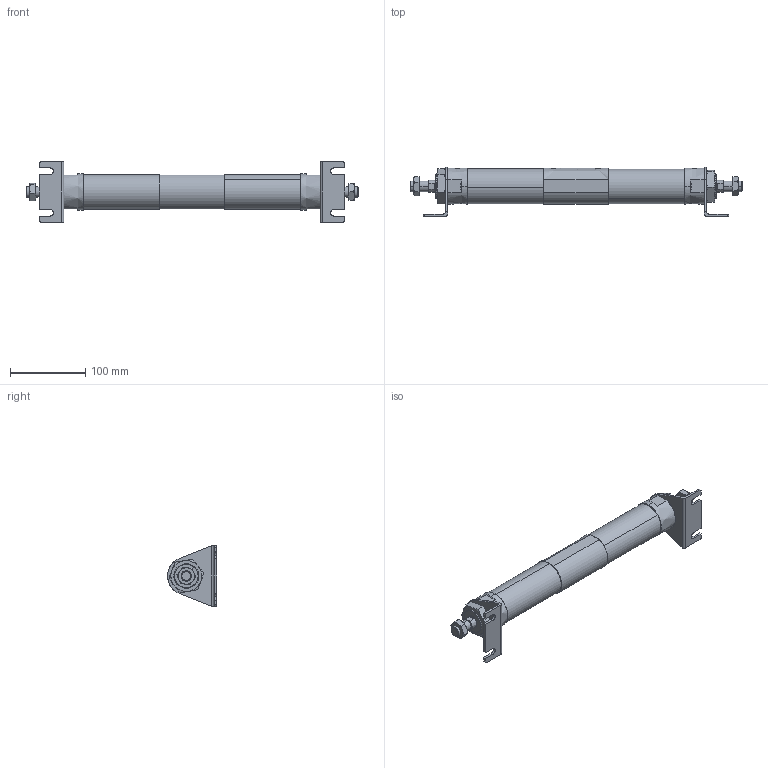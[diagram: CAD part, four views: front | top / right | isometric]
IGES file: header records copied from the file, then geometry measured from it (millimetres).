
Start section: SolidWorks IGES file using analytic representation for surfaces
Global section: file name: C:\Users\Toshiba\Desktop\JGD7-40-50-50-L.IGS; native system: SolidWorks 2014; preprocessor: SolidWorks 2014; author: Toshiba; date: 160419.152528; units: millimetre
Bounding box: 440 x 65 x 80 mm (x, y, z)
Surface area: 109046.9 mm2 (no closed solid volume)
Topology: 0 solids, 0 shells, 226 faces, 4020 edges, 4012 vertices
Faces by surface type: bspline 138, revolution 88
